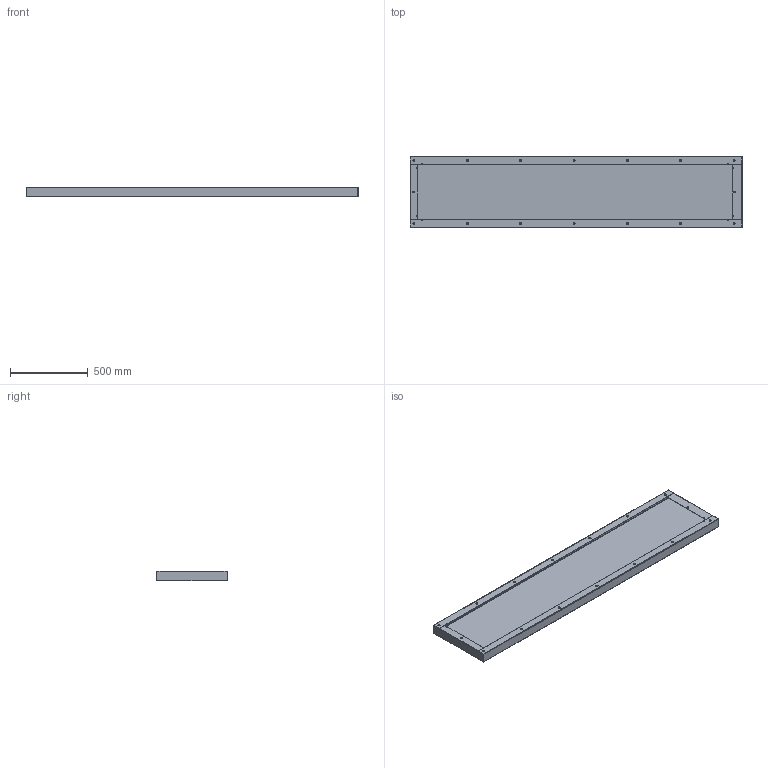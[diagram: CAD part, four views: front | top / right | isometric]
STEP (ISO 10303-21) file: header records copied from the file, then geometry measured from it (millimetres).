
FILE_DESCRIPTION((''),'2;1');
FILE_NAME('MODEL-098_ASM','2017-04-19T',('JoelB'),('SAGINAW CONTROL & ENGINEERING'),'PRO/ENGINEER BY PARAMETRIC TECHNOLOGY CORPORATION, 2012070','PRO/ENGINEER BY PARAMETRIC TECHNOLOGY CORPORATION, 2012070','');
FILE_SCHEMA(('AUTOMOTIVE_DESIGN { 1 0 10303 214 1 1 1 1 }'));
Length unit declared in the file: inch
Products named in the file (4): MODEL-098-END-PLATE; 100082; SCE-MODGK; MODEL-098_ASM
Assembly tree (18 placements, depth 2):
  MODEL-098_ASM
    MODEL-098-END-PLATE
    100082  x16
    SCE-MODGK
Bounding box: 2133.6 x 457.2 x 64.19 mm (x, y, z)
Volume: 2349038.5 mm3; surface area: 3091280.5 mm2
Topology: 17 solids, 17 shells, 386 faces, 848 edges, 512 vertices
Faces by surface type: cylinder 172, plane 98, cone 96, bspline 20
Entity records: 8302 total; most frequent: CARTESIAN_POINT 2833, DIRECTION 862, ORIENTED_EDGE 796, PRESENTATION_STYLE_ASSIGNMENT 400, STYLED_ITEM 400, CURVE_STYLE 398, EDGE_CURVE 398, AXIS2_PLACEMENT_3D 325
